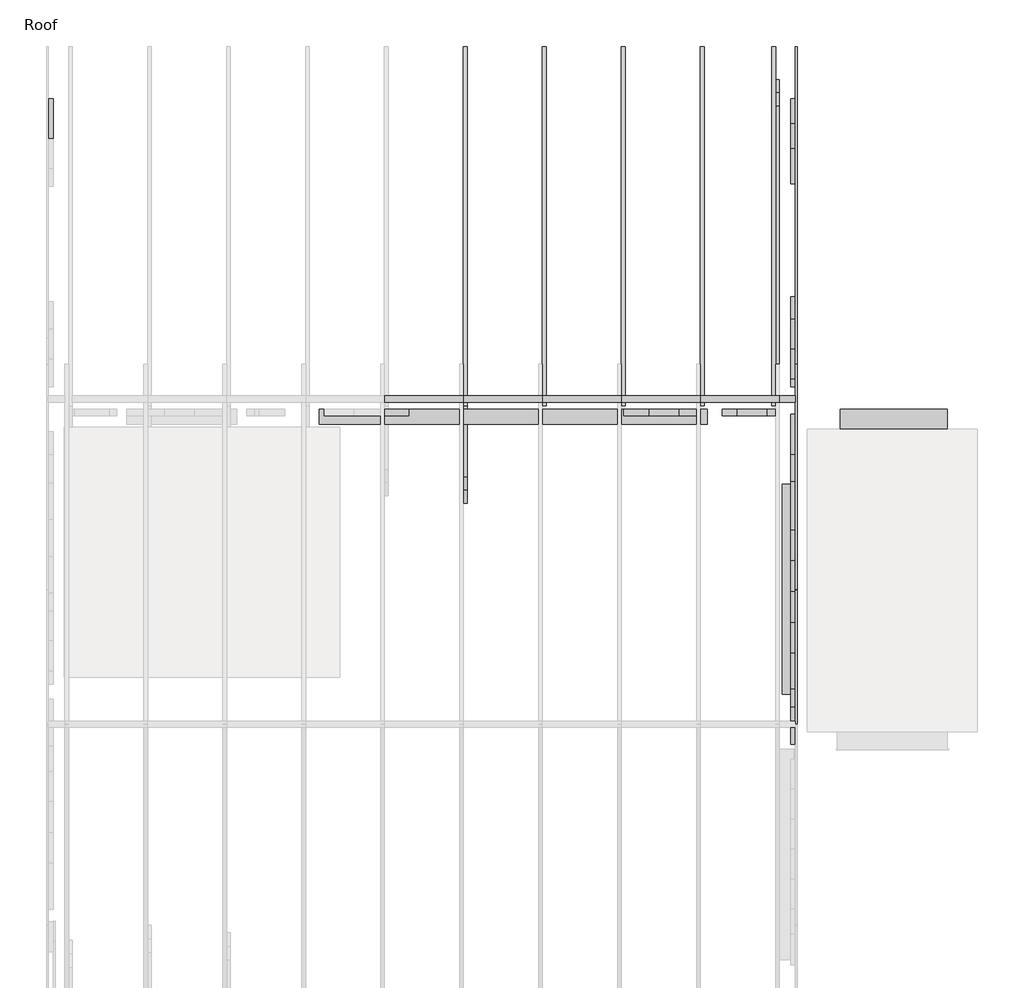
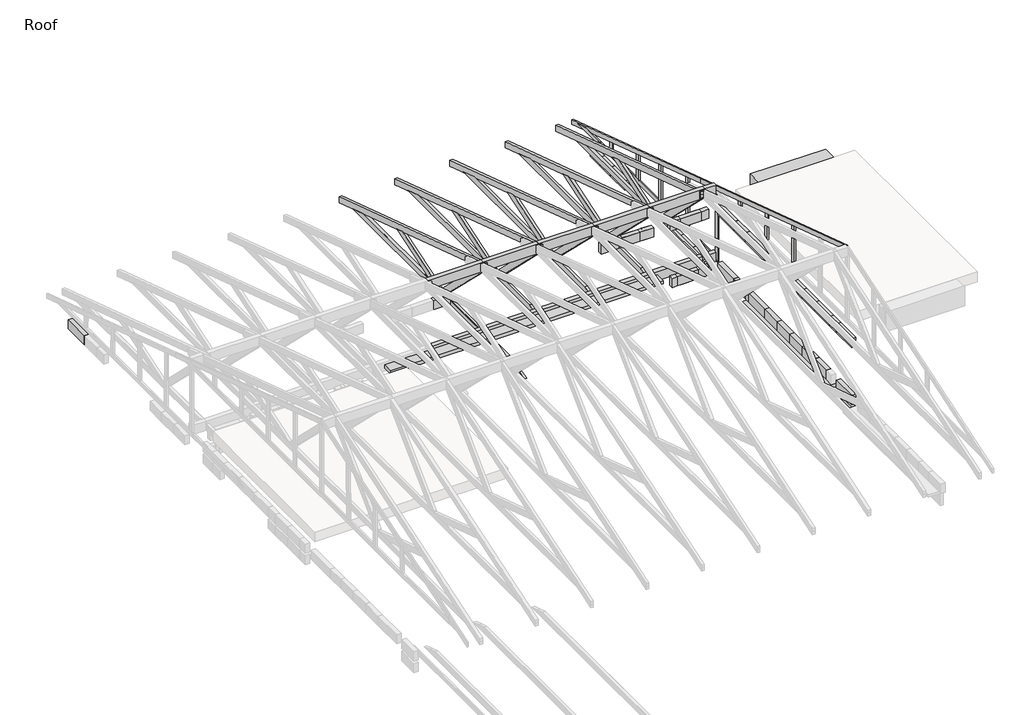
# One storey, part 5 of 5: 85 beams.
"""IFC4 building model written with IfcOpenShell, lengths in millimetres."""

from ifc_helpers import new_model, si_unit, frame, origin, place, context, project, spatial, polyline, outline, extrude, faceted_brep, transform, mapped, element, save
from components import beam_175f67f2, beam_d3007124, beam_9a653d77, beam_1b2abc71, beam_0a4d136b, beam_5e3254dc, beam_7afcca2a, dimension_lumber_2x6_70357265, experttrusspart_2_x_4_906307f6, beam_e0216813, beam_a2527db5, beam_b55a0d5f, beam_5666e245, beam_7e40e194, beam_5d155f78, beam_27df2988, beam_24b50243, beam_b0e6f51d, beam_c8284581, beam_14a9e158, beam_a4d90c35, beam_4063e014, beam_066f0da2, beam_8ec65034, beam_6d0ef5b7, beam_9d6aa0d6, beam_9a5d82eb, beam_c2d99e7f, beam_51b55d0f, beam_34389604, beam_7d733e46, beam_9a696346, beam_fba9aa39

model = new_model("IFC4")

# Units and contexts
model_context = context("Model", 3, world=origin())
ifc_project = project(units=[si_unit("LENGTHUNIT", "METRE", prefix="MILLI")], contexts=[model_context])

# Site, building, storey
site = spatial("IfcSite", under=ifc_project)
building = spatial("IfcBuilding", under=site)
storey = spatial("IfcBuildingStorey", under=building, Name="Roof", Elevation=4267.2)

# Beams
placement = place(None, origin())
element("IfcBeam", 1, ObjectType="BraceBeam : 1\" x 3\"", at=placement, inside=storey, context=model_context, shape_type="Brep", body=[
    faceted_brep([(-3931.9040766, -18731.0582154, 2438.4), (-3931.9040766, -15224.5451678, 2438.4), (-3912.8540766, -15224.5451678, 2438.4), (-3912.8540766, -18731.0582154, 2438.4), (-3912.8540766, -15321.8217635, 2470.15), (-3912.8540766, -15419.0983593, 2501.9), (-3912.8540766, -18667.4946837, 2501.9), (-3931.9040766, -15419.0983593, 2501.9), (-3931.9040766, -18667.4946837, 2501.9), (-3931.9040766, -15321.8217635, 2470.15)], [[[0, 1, 2, 3]], [[3, 2, 4, 5, 6]], [[6, 5, 7, 8]], [[8, 7, 9, 1, 0]], [[5, 4, 2, 1, 9, 7]], [[8, 0, 3, 6]]]),
    faceted_brep([(-3931.9040766, -18731.0582154, 2438.4), (-3931.9040766, -15590.7867725, 2438.4), (-3912.8540766, -15590.7867725, 2438.4), (-3912.8540766, -18731.0582154, 2438.4), (-3931.9040766, -18667.4946837, 2501.9), (-3931.9040766, -15785.339964, 2501.9), (-3912.8540766, -15785.339964, 2501.9), (-3912.8540766, -18667.4946837, 2501.9)], [[[0, 1, 2, 3]], [[4, 5, 1, 0]], [[3, 2, 6, 7]], [[4, 0, 3, 7]], [[7, 6, 5, 4]], [[2, 1, 5, 6]]]),
])
element("IfcBeam", 2, ObjectType="BraceBeam : 1\" x 3\"", at=placement, inside=storey, context=model_context, shape_type="Brep", body=[
    faceted_brep([(-3912.8540766, -18302.7763369, 3399.7852354), (-3912.8540766, -21960.3763369, 4593.5852354), (-3931.9040766, -21960.3763369, 4593.5852354), (-3931.9040766, -18302.7763369, 3399.7852354), (-3931.9040766, -18302.7763369, 3433.1836052), (-3931.9040766, -21960.3763369, 4626.9836052), (-3931.9040766, -21960.3763369, 4660.381975), (-3931.9040766, -18302.7763369, 3466.581975), (-3912.8540766, -21960.3763369, 4660.381975), (-3912.8540766, -18302.7763369, 3466.581975), (-3912.8540766, -18302.7763369, 3433.1836052), (-3912.8540766, -21960.3763369, 4626.9836052)], [[[0, 1, 2, 3]], [[4, 3, 2, 5, 6, 7]], [[7, 6, 8, 9]], [[10, 9, 8, 11, 1, 0]], [[9, 10, 0, 3, 4, 7]], [[6, 5, 2, 1, 11, 8]]]),
])
element("IfcBeam", 3, ObjectType="BraceBeam : 1\" x 3\"", at=placement, inside=storey, context=model_context, shape_type="SweptSolid", body=[
    extrude(outline(polyline([(1080.5257153, -1e-07), (1144.089247, -63.5), (100.0, -63.5000001), (100.0, 0.0), (1080.5257153, -1e-07)])), frame((-3931.9040766, -18666.4141581, 3582.425175), z_axis=(1.0, 2.2086053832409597e-12, 0.0), x_axis=(0.0, -0.000999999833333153, -0.9999995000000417)), (0.0, 0.0, 1.0), 19.05),
])
element("IfcBeam", 4, ObjectType="BraceBeam : 1\" x 3\"", at=placement, inside=storey, context=model_context, shape_type="Brep", body=[
    faceted_brep([(-3931.9040766, -15078.6306856, 2347.4378096), (-3912.8540766, -15078.6306856, 2347.4378096), (-3912.8540766, -18302.7767483, 3399.7852354), (-3931.9040766, -18302.7767483, 3399.7852354), (-3912.8540766, -15078.6304799, 2380.8361793), (-3912.8540766, -15078.6302742, 2414.2345491), (-3912.8540766, -18302.7763369, 3466.581975), (-3912.8540766, -18302.7765426, 3433.1836052), (-3931.9040766, -15078.6302742, 2414.2345491), (-3931.9040766, -18302.7763369, 3466.581975), (-3931.9040766, -15078.6304799, 2380.8361793), (-3931.9040766, -18302.7765426, 3433.1836052)], [[[0, 1, 2, 3]], [[4, 5, 6, 7, 2, 1]], [[5, 8, 9, 6]], [[10, 0, 3, 11, 9, 8]], [[8, 5, 4, 1, 0, 10]], [[6, 9, 11, 3, 2, 7]]]),
])
beam_shape = beam_175f67f2(model_context)
element("IfcBeam", 5, ObjectType="BraceBeam : 1\" x 3\"", at=placement, inside=storey, context=model_context, shape_type="MappedRepresentation", body=[
    mapped(beam_shape, transform((-3922.3790766, -20621.0005721, 3852.5327331), x_axis=(0.0, -0.009347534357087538, 0.9999563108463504), y_axis=(1.0, 0.0, 0.0), z_axis=(0.0, 0.9999563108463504, 0.009347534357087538))),
])
beam_2_shape = beam_d3007124(model_context)
element("IfcBeam", 6, ObjectType="BraceBeam : 1\" x 3\"", at=placement, inside=storey, context=model_context, shape_type="MappedRepresentation", body=[
    mapped(beam_2_shape, transform((-3922.3790766, -19948.8273655, 3742.6902724), x_axis=(0.0, -0.00988492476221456, 0.9999511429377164), y_axis=(1.0, 0.0, 0.0), z_axis=(0.0, 0.9999511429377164, 0.00988492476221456))),
])
beam_3_shape = beam_9a653d77(model_context)
element("IfcBeam", 7, ObjectType="BraceBeam : 1\" x 3\"", at=placement, inside=storey, context=model_context, shape_type="MappedRepresentation", body=[
    mapped(beam_3_shape, transform((-3922.3790766, -19276.6541589, 3632.8478118), x_axis=(0.0, -0.011417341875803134, 0.9999348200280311), y_axis=(1.0, 0.0, 0.0), z_axis=(0.0, 0.9999348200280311, 0.011417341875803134))),
])
beam_4_shape = beam_1b2abc71(model_context)
element("IfcBeam", 8, ObjectType="BraceBeam : 1\" x 3\"", at=placement, inside=storey, context=model_context, shape_type="MappedRepresentation", body=[
    mapped(beam_4_shape, transform((-3922.3790766, -16724.6797487, 2694.4931484), x_axis=(0.0, -0.010060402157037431, 0.9999493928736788), y_axis=(1.0, 4.9157751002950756e-12, 0.0), z_axis=(-4.915526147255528e-12, 0.9999493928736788, 0.010060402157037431))),
])
beam_5_shape = beam_0a4d136b(model_context)
element("IfcBeam", 9, ObjectType="BraceBeam : 1\" x 3\"", at=placement, inside=storey, context=model_context, shape_type="MappedRepresentation", body=[
    mapped(beam_5_shape, transform((-3922.3790766, -16052.5072187, 2584.6486148), x_axis=(0.0, -0.01182266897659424, 0.9999301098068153), y_axis=(1.0, 5.397466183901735e-12, 0.0), z_axis=(-5.397088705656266e-12, 0.9999301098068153, 0.01182266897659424))),
])
beam_6_shape = beam_5e3254dc(model_context)
element("IfcBeam", 10, ObjectType="BraceBeam : 1\" x 3\"", at=placement, inside=storey, context=model_context, shape_type="MappedRepresentation", body=[
    mapped(beam_6_shape, transform((-3922.3790766, -17968.1564448, 2897.0175409), x_axis=(0.0, 0.0005739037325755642, 0.9999998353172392), y_axis=(-1.0, -1.2265905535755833e-10, 0.0), z_axis=(1.226590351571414e-10, -0.9999998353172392, 0.0005739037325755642))),
])
beam_7_shape = beam_7afcca2a(model_context)
element("IfcBeam", 11, ObjectType="BraceBeam : 1\" x 3\"", at=placement, inside=storey, context=model_context, shape_type="MappedRepresentation", body=[
    mapped(beam_7_shape, transform((-3922.3790766, -17287.2411811, 2785.6889482), x_axis=(0.0, 0.0047511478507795, 0.9999887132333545), y_axis=(-1.0, -2.5459365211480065e-11, 0.0), z_axis=(2.5459077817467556e-11, -0.9999887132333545, 0.0047511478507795))),
])
element("IfcBeam", 12, ObjectType="Concrete-Rectangular Beam : 12 x 8", at=placement, inside=storey, context=model_context, shape_type="SweptSolid", body=[
    extrude(outline(polyline([(-3475.3638945, -18963.1763369), (-3475.3638945, -18759.9763369), (-2385.6790766, -18759.9763369), (-2385.6790766, -18963.1763369), (-3475.3638945, -18963.1763369)])), frame((0.0, 0.0, 3352.8), z_axis=(0.0, 0.0, 1.0), x_axis=(1.0, 0.0, 0.0)), (0.0, 0.0, 1.0), 304.8),
])
dimension_lumber_2x6_shape = dimension_lumber_2x6_70357265(model_context)
element("IfcBeam", 13, ObjectType="Dimension Lumber : 2x6", at=placement, inside=storey, context=model_context, shape_type="MappedRepresentation", body=[
    mapped(dimension_lumber_2x6_shape, transform((-6805.2890766, -18836.1763369, 2565.4), x_axis=(-1.0, 0.0, 0.0), y_axis=(0.0, 0.0, -1.0), z_axis=(0.0, -1.0, 0.0))),
])
element("IfcBeam", 14, ObjectType="ExpertTrussPart : 2 x 4", at=placement, inside=storey, context=model_context, shape_type="SweptSolid", body=[
    extrude(outline(polyline([(-19445.2685721, 2527.3), (-15686.1584165, 2527.3), (-15549.9711824, 2482.85), (-15413.7839484, 2438.4), (-19717.6430401, 2438.4), (-19581.4558061, 2482.85), (-19445.2685721, 2527.3)])), frame((-7299.7324099, 0.0, 0.0), z_axis=(1.0, 0.0, 0.0), x_axis=(0.0, 1.0, 0.0)), (0.0, 0.0, 1.0), 38.1),
    extrude(outline(polyline([(-18760.0431336, 2527.3), (-15686.1584165, 2527.3), (-15549.9711824, 2482.85), (-15413.7839484, 2438.4), (-18760.0431336, 2438.4), (-18760.0431336, 2527.3)])), frame((-7299.7324099, 0.0, 0.0), z_axis=(1.0, 0.0, 0.0), x_axis=(0.0, 1.0, 0.0)), (0.0, 0.0, 1.0), 38.1),
    extrude(outline(polyline([(-18734.6431336, 2527.3), (-15686.1584165, 2527.3), (-15549.9711824, 2482.85), (-15413.7839484, 2438.4), (-18734.6431336, 2438.4), (-18734.6431336, 2527.3)])), frame((-7299.7324099, 0.0, 0.0), z_axis=(1.0, 0.0, 0.0), x_axis=(0.0, 1.0, 0.0)), (0.0, 0.0, 1.0), 38.1),
])
element("IfcBeam", 15, ObjectType="ExpertTrussPart : 2 x 4", at=placement, inside=storey, context=model_context, shape_type="SweptSolid", body=[
    extrude(outline(polyline([(-18556.6000825, 3455.8898151), (-17624.7069666, 2543.4111391), (-17626.3913475, 2527.3), (-17735.3211471, 2527.3), (-18723.530009, 3494.9211772), (-18723.530009, 3510.3738883), (-18556.6000825, 3455.8898151)])), frame((-7299.7324099, 0.0, 0.0), z_axis=(1.0, 0.0, 0.0), x_axis=(0.0, 1.0, 0.0)), (0.0, 0.0, 1.0), 38.1),
])
element("IfcBeam", 16, ObjectType="ExpertTrussPart : 2 x 4", at=placement, inside=storey, context=model_context, shape_type="SweptSolid", body=[
    extrude(outline(polyline([(-16659.8101091, 2845.0890941), (-16588.181265, 2821.7102353), (-16516.5524209, 2798.3313765), (-17346.9464253, 2527.3), (-17626.3913475, 2527.3), (-17626.1415576, 2529.6892463), (-16659.8101091, 2845.0890941)])), frame((-7299.7324099, 0.0, 0.0), z_axis=(1.0, 0.0, 0.0), x_axis=(0.0, 1.0, 0.0)), (0.0, 0.0, 1.0), 38.1),
])
element("IfcBeam", 17, ObjectType="ExpertTrussPart : 2 x 4", at=placement, inside=storey, context=model_context, shape_type="SweptSolid", body=[
    extrude(outline(polyline([(-18455.1982114, 2527.3), (-15686.1584165, 2527.3), (-15549.9711824, 2482.85), (-15413.7839484, 2438.4), (-18727.5726795, 2438.4), (-18591.3854455, 2482.85), (-18455.1982114, 2527.3)])), frame((-6497.9390766, 0.0, 0.0), z_axis=(1.0, 0.0, 0.0), x_axis=(0.0, 1.0, 0.0)), (0.0, 0.0, 1.0), 38.1),
])
element("IfcBeam", 18, ObjectType="ExpertTrussPart : 2 x 4", at=placement, inside=storey, context=model_context, shape_type="SweptSolid", body=[
    extrude(outline(polyline([(-18556.6000825, 3455.8898151), (-17624.7069666, 2543.4111391), (-17626.3913475, 2527.3), (-17735.3211471, 2527.3), (-18723.530009, 3494.9211772), (-18723.530009, 3510.3738883), (-18556.6000825, 3455.8898151)])), frame((-6497.9390766, 0.0, 0.0), z_axis=(1.0, 0.0, 0.0), x_axis=(0.0, 1.0, 0.0)), (0.0, 0.0, 1.0), 38.1),
])
element("IfcBeam", 19, ObjectType="ExpertTrussPart : 2 x 4", at=placement, inside=storey, context=model_context, shape_type="SweptSolid", body=[
    extrude(outline(polyline([(-16659.8101091, 2845.0890941), (-16588.181265, 2821.7102353), (-16516.5524209, 2798.3313765), (-17346.9464253, 2527.3), (-17626.3913475, 2527.3), (-17626.1415576, 2529.6892463), (-16659.8101091, 2845.0890941)])), frame((-6497.9390766, 0.0, 0.0), z_axis=(1.0, 0.0, 0.0), x_axis=(0.0, 1.0, 0.0)), (0.0, 0.0, 1.0), 38.1),
])
element("IfcBeam", 20, ObjectType="ExpertTrussPart : 2 x 4", at=placement, inside=storey, context=model_context, shape_type="SweptSolid", body=[
    extrude(outline(polyline([(-18455.1982114, 2527.3), (-15686.1584165, 2527.3), (-15549.9711824, 2482.85), (-15413.7839484, 2438.4), (-18727.5726795, 2438.4), (-18591.3854455, 2482.85), (-18455.1982114, 2527.3)])), frame((-5696.1457433, 0.0, 0.0), z_axis=(1.0, 0.0, 0.0), x_axis=(0.0, 1.0, 0.0)), (0.0, 0.0, 1.0), 38.1),
])
element("IfcBeam", 21, ObjectType="ExpertTrussPart : 2 x 4", at=placement, inside=storey, context=model_context, shape_type="SweptSolid", body=[
    extrude(outline(polyline([(-18556.6000825, 3455.8898151), (-17624.7069666, 2543.4111391), (-17626.3913475, 2527.3), (-17735.3211471, 2527.3), (-18723.530009, 3494.9211772), (-18723.530009, 3510.3738883), (-18556.6000825, 3455.8898151)])), frame((-5696.1457433, 0.0, 0.0), z_axis=(1.0, 0.0, 0.0), x_axis=(0.0, 1.0, 0.0)), (0.0, 0.0, 1.0), 38.1),
])
element("IfcBeam", 22, ObjectType="ExpertTrussPart : 2 x 4", at=placement, inside=storey, context=model_context, shape_type="SweptSolid", body=[
    extrude(outline(polyline([(-16659.8101091, 2845.0890941), (-16588.181265, 2821.7102353), (-16516.5524209, 2798.3313765), (-17346.9464253, 2527.3), (-17626.3913475, 2527.3), (-17626.1415576, 2529.6892463), (-16659.8101091, 2845.0890941)])), frame((-5696.1457433, 0.0, 0.0), z_axis=(1.0, 0.0, 0.0), x_axis=(0.0, 1.0, 0.0)), (0.0, 0.0, 1.0), 38.1),
])
element("IfcBeam", 23, ObjectType="ExpertTrussPart : 2 x 4", at=placement, inside=storey, context=model_context, shape_type="SweptSolid", body=[
    extrude(outline(polyline([(-18455.1982114, 2527.3), (-15686.1584165, 2527.3), (-15549.9711824, 2482.85), (-15413.7839484, 2438.4), (-18727.5726795, 2438.4), (-18591.3854455, 2482.85), (-18455.1982114, 2527.3)])), frame((-4894.3524099, 0.0, 0.0), z_axis=(1.0, 0.0, 0.0), x_axis=(0.0, 1.0, 0.0)), (0.0, 0.0, 1.0), 38.1),
])
element("IfcBeam", 24, ObjectType="ExpertTrussPart : 2 x 4", at=placement, inside=storey, context=model_context, shape_type="SweptSolid", body=[
    extrude(outline(polyline([(-18556.6000825, 3455.8898151), (-17624.7069666, 2543.4111391), (-17626.3913475, 2527.3), (-17735.3211471, 2527.3), (-18723.530009, 3494.9211772), (-18723.530009, 3510.3738883), (-18556.6000825, 3455.8898151)])), frame((-4894.3524099, 0.0, 0.0), z_axis=(1.0, 0.0, 0.0), x_axis=(0.0, 1.0, 0.0)), (0.0, 0.0, 1.0), 38.1),
])
element("IfcBeam", 25, ObjectType="ExpertTrussPart : 2 x 4", at=placement, inside=storey, context=model_context, shape_type="SweptSolid", body=[
    extrude(outline(polyline([(-16659.8101091, 2845.0890941), (-16588.181265, 2821.7102353), (-16516.5524209, 2798.3313765), (-17346.9464253, 2527.3), (-17626.3913475, 2527.3), (-17626.1415576, 2529.6892463), (-16659.8101091, 2845.0890941)])), frame((-4894.3524099, 0.0, 0.0), z_axis=(1.0, 0.0, 0.0), x_axis=(0.0, 1.0, 0.0)), (0.0, 0.0, 1.0), 38.1),
])
element("IfcBeam", 26, ObjectType="ExpertTrussPart : 2 x 4", at=placement, inside=storey, context=model_context, shape_type="SweptSolid", body=[
    extrude(outline(polyline([(-18734.6431336, 2527.3), (-15686.1584165, 2527.3), (-15549.9711824, 2482.85), (-15413.7839484, 2438.4), (-18734.6431336, 2438.4), (-18734.6431336, 2482.85), (-18734.6431336, 2527.3)])), frame((-4130.6590766, 0.0, 0.0), z_axis=(1.0, 0.0, 0.0), x_axis=(0.0, 1.0, 0.0)), (0.0, 0.0, 1.0), 38.1),
])
element("IfcBeam", 27, ObjectType="ExpertTrussPart : 2 x 4", at=placement, inside=storey, context=model_context, shape_type="SweptSolid", body=[
    extrude(outline(polyline([(-18556.6000825, 3455.8898151), (-17624.7069666, 2543.4111391), (-17626.3913475, 2527.3), (-17735.3211471, 2527.3), (-18723.530009, 3494.9211772), (-18723.530009, 3510.3738883), (-18556.6000825, 3455.8898151)])), frame((-4168.7590766, 0.0, 0.0), z_axis=(1.0, 0.0, 0.0), x_axis=(0.0, 1.0, 0.0)), (0.0, 0.0, 1.0), 38.1),
])
element("IfcBeam", 28, ObjectType="ExpertTrussPart : 2 x 4", at=placement, inside=storey, context=model_context, shape_type="SweptSolid", body=[
    extrude(outline(polyline([(-16659.8101091, 2845.0890941), (-16588.181265, 2821.7102353), (-16516.5524209, 2798.3313765), (-17346.9464253, 2527.3), (-17626.3913475, 2527.3), (-17626.1415576, 2529.6892463), (-16659.8101091, 2845.0890941)])), frame((-4168.7590766, 0.0, 0.0), z_axis=(1.0, 0.0, 0.0), x_axis=(0.0, 1.0, 0.0)), (0.0, 0.0, 1.0), 38.1),
])
experttrusspart_2_x_4_shape = experttrusspart_2_x_4_906307f6(model_context)
element("IfcBeam", 29, ObjectType="ExpertTrussPart : 2 x 4", at=placement, inside=storey, context=model_context, shape_type="MappedRepresentation", body=[
    mapped(experttrusspart_2_x_4_shape, transform((-7280.6824099, -16914.872089, 2920.0480394), x_axis=(0.0, 0.9506452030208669, -0.31028003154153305), y_axis=(-1.0, 0.0, 0.0), z_axis=(0.0, 0.31028003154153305, 0.9506452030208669))),
])
element("IfcBeam", 30, ObjectType="ExpertTrussPart : 2 x 4", at=placement, inside=storey, context=model_context, shape_type="MappedRepresentation", body=[
    mapped(experttrusspart_2_x_4_shape, transform((-6478.8890766, -16914.872089, 2920.0480394), x_axis=(0.0, 0.9506452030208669, -0.31028003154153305), y_axis=(-1.0, 0.0, 0.0), z_axis=(0.0, 0.31028003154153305, 0.9506452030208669))),
])
element("IfcBeam", 31, ObjectType="ExpertTrussPart : 2 x 4", at=placement, inside=storey, context=model_context, shape_type="MappedRepresentation", body=[
    mapped(experttrusspart_2_x_4_shape, transform((-5677.0957433, -16914.872089, 2920.0480394), x_axis=(0.0, 0.9506452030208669, -0.31028003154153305), y_axis=(-1.0, 0.0, 0.0), z_axis=(0.0, 0.31028003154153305, 0.9506452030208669))),
])
element("IfcBeam", 32, ObjectType="ExpertTrussPart : 2 x 4", at=placement, inside=storey, context=model_context, shape_type="MappedRepresentation", body=[
    mapped(experttrusspart_2_x_4_shape, transform((-4875.3024099, -16914.872089, 2920.0480394), x_axis=(0.0, 0.9506452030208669, -0.31028003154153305), y_axis=(-1.0, 0.0, 0.0), z_axis=(0.0, 0.31028003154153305, 0.9506452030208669))),
])
element("IfcBeam", 33, ObjectType="ExpertTrussPart : 2 x 4", at=placement, inside=storey, context=model_context, shape_type="MappedRepresentation", body=[
    mapped(experttrusspart_2_x_4_shape, transform((-4149.7090766, -16914.872089, 2920.0480394), x_axis=(0.0, 0.9506452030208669, -0.31028003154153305), y_axis=(-1.0, 0.0, 0.0), z_axis=(0.0, 0.31028003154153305, 0.9506452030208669))),
])
beam_8_shape = beam_e0216813(model_context)
element("IfcBeam", 34, ObjectType="Rectangular(Timber)-Beam : Timber_0' - 1 31/32\" x0' - 5 29/32\" _ContentGenerator", at=placement, inside=storey, context=model_context, shape_type="MappedRepresentation", body=[
    mapped(beam_8_shape, transform((-3985.8790766, -20588.7863369, 2336.8), x_axis=(0.0, -1.0000000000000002, 0.0), y_axis=(0.0, 0.0, -1.0000000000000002), z_axis=(1.0000000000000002, 0.0, 0.0))),
])
element("IfcBeam", 35, ObjectType="WallPlates : 6\" x 3\"", at=placement, inside=storey, context=model_context, shape_type="SweptSolid", body=[
    extrude(outline(polyline([(-4570.0890766, -18826.6513369), (-4570.0890766, -18763.1513369), (-4265.2890766, -18763.1513369), (-4265.2890766, -18826.6513369), (-4570.0890766, -18826.6513369)])), frame((0.0, 0.0, 2368.55), z_axis=(0.0, 0.0, 1.0), x_axis=(1.0, 0.0, 0.0)), (0.0, 0.0, 1.0), 139.7),
    extrude(outline(polyline([(-4519.2890766, -18763.1513369), (-4265.2890766, -18763.1513369), (-4265.2890766, -18826.6513369), (-4519.2890766, -18826.6513369), (-4519.2890766, -18763.1513369)])), frame((0.0, 0.0, 2368.55), z_axis=(0.0, 0.0, 1.0), x_axis=(1.0, 0.0, 0.0)), (0.0, 0.0, 1.0), 139.7),
])
element("IfcBeam", 36, ObjectType="WallPlates : 6\" x 3\"", at=placement, inside=storey, context=model_context, shape_type="SweptSolid", body=[
    extrude(outline(polyline([(-4265.2890766, -18826.6513369), (-4265.2890766, -18763.1513369), (-4112.8690766, -18763.1513369), (-4112.8690766, -18826.6513369), (-4265.2890766, -18826.6513369)])), frame((0.0, 0.0, 2368.55), z_axis=(0.0, 0.0, 1.0), x_axis=(1.0, 0.0, 0.0)), (0.0, 0.0, 1.0), 139.7),
    extrude(outline(polyline([(-4214.4890766, -18763.1513369), (-4112.8690766, -18763.1513369), (-4112.8690766, -18826.6513369), (-4214.4890766, -18826.6513369), (-4214.4890766, -18763.1513369)])), frame((0.0, 0.0, 2368.55), z_axis=(0.0, 0.0, 1.0), x_axis=(1.0, 0.0, 0.0)), (0.0, 0.0, 1.0), 139.7),
])
element("IfcBeam", 37, ObjectType="WallPlates : 6\" x 3\"", at=placement, inside=storey, context=model_context, shape_type="SweptSolid", body=[
    extrude(outline(polyline([(-4519.2890766, -18826.6513369), (-4519.2890766, -18763.1513369), (-4214.4890766, -18763.1513369), (-4214.4890766, -18826.6513369), (-4519.2890766, -18826.6513369)])), frame((0.0, 0.0, 3241.156975), z_axis=(0.0, 0.0, 1.0), x_axis=(1.0, 0.0, 0.0)), (0.0, 0.0, 1.0), 139.7),
    extrude(outline(polyline([(-4519.2890766, -18826.6513369), (-4519.2890766, -18763.1513369), (-4265.2890766, -18763.1513369), (-4265.2890766, -18826.6513369), (-4519.2890766, -18826.6513369)])), frame((0.0, 0.0, 3241.156975), z_axis=(0.0, 0.0, 1.0), x_axis=(1.0, 0.0, 0.0)), (0.0, 0.0, 1.0), 139.7),
])
element("IfcBeam", 38, ObjectType="WallPlates : 6\" x 3\"", at=placement, inside=storey, context=model_context, shape_type="SweptSolid", body=[
    extrude(outline(polyline([(-4671.6890766, -18826.6513369), (-4671.6890766, -18763.1513369), (-4519.2890766, -18763.1513369), (-4519.2890766, -18826.6513369), (-4671.6890766, -18826.6513369)])), frame((0.0, 0.0, 3241.156975), z_axis=(0.0, 0.0, 1.0), x_axis=(1.0, 0.0, 0.0)), (0.0, 0.0, 1.0), 139.7),
    extrude(outline(polyline([(-4671.6890766, -18826.6513369), (-4671.6890766, -18763.1513369), (-4570.0890766, -18763.1513369), (-4570.0890766, -18826.6513369), (-4671.6890766, -18826.6513369)])), frame((0.0, 0.0, 3241.156975), z_axis=(0.0, 0.0, 1.0), x_axis=(1.0, 0.0, 0.0)), (0.0, 0.0, 1.0), 139.7),
])
element("IfcBeam", 39, ObjectType="WallPlates : 6\" x 3\"", at=placement, inside=storey, context=model_context, shape_type="SweptSolid", body=[
    extrude(outline(polyline([(-5416.7457433, -18826.6513369), (-5416.7457433, -18763.1513369), (-5111.9457433, -18763.1513369), (-5111.9457433, -18826.6513369), (-5416.7457433, -18826.6513369)])), frame((0.0, 0.0, 3241.156975), z_axis=(0.0, 0.0, 1.0), x_axis=(1.0, 0.0, 0.0)), (0.0, 0.0, 1.0), 139.7),
    extrude(outline(polyline([(-5365.9457433, -18763.1513369), (-5111.9457433, -18763.1513369), (-5111.9457433, -18826.6513369), (-5365.9457433, -18826.6513369), (-5365.9457433, -18763.1513369)])), frame((0.0, 0.0, 3241.156975), z_axis=(0.0, 0.0, 1.0), x_axis=(1.0, 0.0, 0.0)), (0.0, 0.0, 1.0), 139.7),
])
element("IfcBeam", 40, ObjectType="WallPlates : 6\" x 3\"", at=placement, inside=storey, context=model_context, shape_type="SweptSolid", body=[
    extrude(outline(polyline([(-5111.9457433, -18826.6513369), (-5111.9457433, -18763.1513369), (-4908.7457433, -18763.1513369), (-4908.7457433, -18826.6513369), (-5111.9457433, -18826.6513369)])), frame((0.0, 0.0, 3241.156975), z_axis=(0.0, 0.0, 1.0), x_axis=(1.0, 0.0, 0.0)), (0.0, 0.0, 1.0), 139.7),
    extrude(outline(polyline([(-5061.1457433, -18763.1513369), (-4908.7457433, -18763.1513369), (-4908.7457433, -18826.6513369), (-5061.1457433, -18826.6513369), (-5061.1457433, -18763.1513369)])), frame((0.0, 0.0, 3241.156975), z_axis=(0.0, 0.0, 1.0), x_axis=(1.0, 0.0, 0.0)), (0.0, 0.0, 1.0), 139.7),
])
beam_9_shape = beam_a2527db5(model_context)
element("IfcBeam", 41, ObjectType="WallPlates : 6\" x 3\"", at=placement, inside=storey, context=model_context, shape_type="MappedRepresentation", body=[
    mapped(beam_9_shape, transform((-7700.6290766, -18658.4431336, 2508.25), x_axis=(-1.0000000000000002, 0.0, 0.0), y_axis=(0.0, 0.0, -1.0000000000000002), z_axis=(0.0, -1.0000000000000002, 0.0))),
])
element("IfcBeam", 42, ObjectType="WallPlates : 6\" x 3\"", at=placement, inside=storey, context=model_context, shape_type="MappedRepresentation", body=[
    mapped(beam_9_shape, transform((-7700.6290766, -18658.4431336, 3534.2048183), x_axis=(-1.0000000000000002, 0.0, 0.0), y_axis=(0.0, 0.0, -1.0000000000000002), z_axis=(0.0, -1.0000000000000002, 0.0))),
])
element("IfcBeam", 43, ObjectType="WallPlates : 6\" x 3\"", at=placement, inside=storey, context=model_context, shape_type="MappedRepresentation", body=[
    mapped(beam_9_shape, transform((-6898.8357433, -18658.4431336, 2508.25), x_axis=(-1.0000000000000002, 0.0, 0.0), y_axis=(0.0, 0.0, -1.0000000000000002), z_axis=(0.0, -1.0000000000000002, 0.0))),
])
element("IfcBeam", 44, ObjectType="WallPlates : 6\" x 3\"", at=placement, inside=storey, context=model_context, shape_type="MappedRepresentation", body=[
    mapped(beam_9_shape, transform((-6898.8357433, -18658.4431336, 3534.2048183), x_axis=(-1.0000000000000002, 0.0, 0.0), y_axis=(0.0, 0.0, -1.0000000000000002), z_axis=(0.0, -1.0000000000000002, 0.0))),
])
element("IfcBeam", 45, ObjectType="WallPlates : 6\" x 3\"", at=placement, inside=storey, context=model_context, shape_type="MappedRepresentation", body=[
    mapped(beam_9_shape, transform((-6097.0424099, -18658.4431336, 2508.25), x_axis=(-1.0000000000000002, 0.0, 0.0), y_axis=(0.0, 0.0, -1.0000000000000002), z_axis=(0.0, -1.0000000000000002, 0.0))),
])
element("IfcBeam", 46, ObjectType="WallPlates : 6\" x 3\"", at=placement, inside=storey, context=model_context, shape_type="MappedRepresentation", body=[
    mapped(beam_9_shape, transform((-6097.0424099, -18658.4431336, 3534.2048183), x_axis=(-1.0000000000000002, 0.0, 0.0), y_axis=(0.0, 0.0, -1.0000000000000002), z_axis=(0.0, -1.0000000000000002, 0.0))),
])
element("IfcBeam", 47, ObjectType="WallPlates : 6\" x 3\"", at=placement, inside=storey, context=model_context, shape_type="MappedRepresentation", body=[
    mapped(beam_9_shape, transform((-5295.2490766, -18658.4431336, 2508.25), x_axis=(-1.0000000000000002, 0.0, 0.0), y_axis=(0.0, 0.0, -1.0000000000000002), z_axis=(0.0, -1.0000000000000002, 0.0))),
])
element("IfcBeam", 48, ObjectType="WallPlates : 6\" x 3\"", at=placement, inside=storey, context=model_context, shape_type="MappedRepresentation", body=[
    mapped(beam_9_shape, transform((-5295.2490766, -18658.4431336, 3534.2048183), x_axis=(-1.0000000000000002, 0.0, 0.0), y_axis=(0.0, 0.0, -1.0000000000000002), z_axis=(0.0, -1.0000000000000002, 0.0))),
])
element("IfcBeam", 49, ObjectType="WallPlates : 6\" x 3\"", at=placement, inside=storey, context=model_context, shape_type="MappedRepresentation", body=[
    mapped(beam_9_shape, transform((-4493.4557433, -18658.4431336, 3534.2048183), x_axis=(-1.0000000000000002, 0.0, 0.0), y_axis=(0.0, 0.0, -1.0000000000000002), z_axis=(0.0, -1.0000000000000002, 0.0))),
])
beam_10_shape = beam_b55a0d5f(model_context)
element("IfcBeam", 50, ObjectType="WallPlates : 6\" x 3\"", at=placement, inside=storey, context=model_context, shape_type="MappedRepresentation", body=[
    mapped(beam_10_shape, transform((-3944.5990766, -16296.2431336, 2264.3798851), x_axis=(0.0, 1.0000000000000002, 0.0), y_axis=(0.0, 0.0, -1.0000000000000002), z_axis=(-1.0000000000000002, 0.0, 0.0))),
])
beam_11_shape = beam_5666e245(model_context)
element("IfcBeam", 51, ObjectType="WallPlates : 6\" x 3\"", at=placement, inside=storey, context=model_context, shape_type="MappedRepresentation", body=[
    mapped(beam_11_shape, transform((-3944.5990766, -15737.4481336, 2264.3798851), x_axis=(0.0, 1.0000000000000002, 0.0), y_axis=(0.0, 0.0, -1.0000000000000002), z_axis=(-1.0000000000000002, 0.0, 0.0))),
])
beam_12_shape = beam_7e40e194(model_context)
element("IfcBeam", 52, ObjectType="WallPlates : 6\" x 3\"", at=placement, inside=storey, context=model_context, shape_type="MappedRepresentation", body=[
    mapped(beam_12_shape, transform((-11494.7540766, -15813.6431336, 2266.95), x_axis=(0.0, 1.0000000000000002, 0.0), y_axis=(0.0, 0.0, -1.0000000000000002), z_axis=(-1.0000000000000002, 0.0, 0.0))),
])
beam_13_shape = beam_5d155f78(model_context)
element("IfcBeam", 53, ObjectType="WallPlates : 6\" x 3\"", at=placement, inside=storey, context=model_context, shape_type="MappedRepresentation", body=[
    mapped(beam_13_shape, transform((-4012.2315766, -18658.4431336, 3534.2048183), x_axis=(-1.0000000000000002, 0.0, 0.0), y_axis=(0.0, 0.0, -1.0000000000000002), z_axis=(0.0, -1.0000000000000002, 0.0))),
])
beam_14_shape = beam_27df2988(model_context)
element("IfcBeam", 54, ObjectType="WallPlates : 6\" x 3\"", at=placement, inside=storey, context=model_context, shape_type="MappedRepresentation", body=[
    mapped(beam_14_shape, transform((-4512.5057433, -18658.4431336, 2508.25), x_axis=(-1.0000000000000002, 0.0, 0.0), y_axis=(0.0, 0.0, -1.0000000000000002), z_axis=(0.0, -1.0000000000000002, 0.0))),
])
beam_15_shape = beam_24b50243(model_context)
element("IfcBeam", 55, ObjectType="WallPlates : 6\" x 3\"", at=placement, inside=storey, context=model_context, shape_type="MappedRepresentation", body=[
    mapped(beam_15_shape, transform((-4031.2815766, -18658.4431336, 2508.25), x_axis=(-1.0000000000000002, 0.0, 0.0), y_axis=(0.0, 0.0, -1.0000000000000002), z_axis=(0.0, -1.0000000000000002, 0.0))),
])
beam_16_shape = beam_b0e6f51d(model_context)
element("IfcBeam", 56, ObjectType="WallPlates : 6\" x 3\"", at=placement, inside=storey, context=model_context, shape_type="MappedRepresentation", body=[
    mapped(beam_16_shape, transform((-3944.6040766, -19742.1096702, 3308.35), x_axis=(0.0, -1.0000000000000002, 0.0), y_axis=(0.0, 0.0, -1.0000000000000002), z_axis=(1.0000000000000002, 0.0, 0.0))),
])
beam_17_shape = beam_c8284581(model_context)
element("IfcBeam", 57, ObjectType="WallPlates : 6\" x 3\"", at=placement, inside=storey, context=model_context, shape_type="MappedRepresentation", body=[
    mapped(beam_17_shape, transform((-3944.6040766, -21384.6430036, 2438.4), x_axis=(0.0, -1.0000000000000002, 0.0), y_axis=(0.0, 0.0, -1.0000000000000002), z_axis=(1.0000000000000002, 0.0, 0.0))),
])
beam_18_shape = beam_14a9e158(model_context)
element("IfcBeam", 58, ObjectType="WallPlates : 6\" x 3\"", at=placement, inside=storey, context=model_context, shape_type="MappedRepresentation", body=[
    mapped(beam_18_shape, transform((-4163.6790766, -18794.9013369, 3311.006975), x_axis=(1.0000000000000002, 0.0, 0.0), y_axis=(0.0, 0.0, -1.0000000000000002), z_axis=(0.0, 1.0000000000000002, 0.0))),
])
beam_19_shape = beam_a4d90c35(model_context)
element("IfcBeam", 59, ObjectType="WallPlates : 6\" x 3\"", at=placement, inside=storey, context=model_context, shape_type="MappedRepresentation", body=[
    mapped(beam_19_shape, transform((-5543.7457433, -18794.9013369, 3311.006975), x_axis=(1.0000000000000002, 0.0, 0.0), y_axis=(0.0, 0.0, -1.0000000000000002), z_axis=(0.0, 1.0000000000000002, 0.0))),
])
beam_20_shape = beam_4063e014(model_context)
element("IfcBeam", 60, ObjectType="WallPlates : 6\" x 3\"", at=placement, inside=storey, context=model_context, shape_type="MappedRepresentation", body=[
    mapped(beam_20_shape, transform((-7978.3357433, -18794.9013369, 3311.006975), x_axis=(1.0000000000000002, 0.0, 0.0), y_axis=(0.0, 0.0, -1.0000000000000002), z_axis=(0.0, 1.0000000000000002, 0.0))),
])
element("IfcBeam", 61, ObjectType="WallPlates : 6\" x 3\"", at=placement, inside=storey, context=model_context, shape_type="MappedRepresentation", body=[
    mapped(beam_12_shape, transform((-3944.6040766, -19013.9763369, 2438.4), x_axis=(0.0, -1.0000000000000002, 0.0), y_axis=(0.0, 0.0, -1.0000000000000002), z_axis=(1.0000000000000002, 0.0, 0.0))),
])
element("IfcBeam", 62, ObjectType="WallPlates : 6\" x 3\"", at=placement, inside=storey, context=model_context, shape_type="MappedRepresentation", body=[
    mapped(beam_12_shape, transform((-3944.6040766, -19013.9763369, 3308.35), x_axis=(0.0, -1.0000000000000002, 0.0), y_axis=(0.0, 0.0, -1.0000000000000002), z_axis=(1.0000000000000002, 0.0, 0.0))),
])
beam_21_shape = beam_066f0da2(model_context)
element("IfcBeam", 63, ObjectType="WallPlates : 6\" x 3\"", at=placement, inside=storey, context=model_context, shape_type="MappedRepresentation", body=[
    mapped(beam_21_shape, transform((-3944.6040766, -21972.2824072, 3308.35), x_axis=(0.0, -1.0000000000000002, 0.0), y_axis=(0.0, 0.0, -1.0000000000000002), z_axis=(1.0000000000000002, 0.0, 0.0))),
])
element("IfcBeam", 64, ObjectType="WallPlates : 6\" x 3\"", at=placement, inside=storey, context=model_context, shape_type="MappedRepresentation", body=[
    mapped(beam_21_shape, transform((-3944.6040766, -21972.2824072, 2438.4), x_axis=(0.0, -1.0000000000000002, 0.0), y_axis=(0.0, 0.0, -1.0000000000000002), z_axis=(1.0000000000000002, 0.0, 0.0))),
])
element("IfcBeam", 65, ObjectType="WallPlates : 6\" x 3\"", at=placement, inside=storey, context=model_context, shape_type="MappedRepresentation", body=[
    mapped(beam_21_shape, transform((-3944.6040766, -21972.2824072, 2260.6), x_axis=(0.0, -1.0000000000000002, 0.0), y_axis=(0.0, 0.0, -1.0000000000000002), z_axis=(1.0000000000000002, 0.0, 0.0))),
])
beam_22_shape = beam_8ec65034(model_context)
element("IfcBeam", 66, ObjectType="WallPlates : 6\" x 3\"", at=placement, inside=storey, context=model_context, shape_type="MappedRepresentation", body=[
    mapped(beam_22_shape, transform((-4606.7663874, -18794.9013369, 2438.4), x_axis=(1.0000000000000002, 0.0, 0.0), y_axis=(0.0, 0.0, -1.0000000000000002), z_axis=(0.0, 1.0000000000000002, 0.0))),
])
beam_23_shape = beam_6d0ef5b7(model_context)
element("IfcBeam", 67, ObjectType="WallPlates : 6\" x 3\"", at=placement, inside=storey, context=model_context, shape_type="MappedRepresentation", body=[
    mapped(beam_23_shape, transform((-3944.5990766, -18493.3506336, 2264.3798851), x_axis=(0.0, 1.0000000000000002, 0.0), y_axis=(0.0, 0.0, -1.0000000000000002), z_axis=(-1.0000000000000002, 0.0, 0.0))),
])
beam_24_shape = beam_9d6aa0d6(model_context)
element("IfcBeam", 68, ObjectType="WallPlates : 6\" x 3\"", at=placement, inside=storey, context=model_context, shape_type="MappedRepresentation", body=[
    mapped(beam_24_shape, transform((-3944.5990766, -18302.8431336, 2264.3798851), x_axis=(0.0, 1.0000000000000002, 0.0), y_axis=(0.0, 0.0, -1.0000000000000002), z_axis=(-1.0000000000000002, 0.0, 0.0))),
])
element("IfcBeam", 69, ObjectType="WallPlates : 6\" x 3\"", at=placement, inside=storey, context=model_context, shape_type="MappedRepresentation", body=[
    mapped(beam_24_shape, transform((-3944.5990766, -17998.0431336, 2264.3798851), x_axis=(0.0, 1.0000000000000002, 0.0), y_axis=(0.0, 0.0, -1.0000000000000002), z_axis=(-1.0000000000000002, 0.0, 0.0))),
])
beam_25_shape = beam_9a5d82eb(model_context)
element("IfcBeam", 70, ObjectType="WallPlates : 6\" x 3\"", at=placement, inside=storey, context=model_context, shape_type="MappedRepresentation", body=[
    mapped(beam_25_shape, transform((-3944.5990766, -17731.3481336, 2264.3798851), x_axis=(0.0, 1.0000000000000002, 0.0), y_axis=(0.0, 0.0, -1.0000000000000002), z_axis=(-1.0000000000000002, 0.0, 0.0))),
])
element("IfcBeam", 71, ObjectType="WallPlates : 6\" x 3\"", at=placement, inside=storey, context=model_context, shape_type="MappedRepresentation", body=[
    mapped(beam_19_shape, transform((-3944.5990766, -15991.4431336, 2264.3798851), x_axis=(0.0, 1.0000000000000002, 0.0), y_axis=(0.0, 0.0, -1.0000000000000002), z_axis=(-1.0000000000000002, 0.0, 0.0))),
])
beam_26_shape = beam_c2d99e7f(model_context)
element("IfcBeam", 72, ObjectType="WallPlates : 6\" x 3\"", at=placement, inside=storey, context=model_context, shape_type="MappedRepresentation", body=[
    mapped(beam_26_shape, transform((-3944.6040766, -19534.6813369, 2438.4), x_axis=(0.0, -1.0000000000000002, 0.0), y_axis=(0.0, 0.0, -1.0000000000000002), z_axis=(1.0000000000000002, 0.0, 0.0))),
])
beam_27_shape = beam_51b55d0f(model_context)
element("IfcBeam", 73, ObjectType="WallPlates : 6\" x 3\"", at=placement, inside=storey, context=model_context, shape_type="MappedRepresentation", body=[
    mapped(beam_27_shape, transform((-3944.6040766, -21693.6813369, 3308.35), x_axis=(0.0, -1.0000000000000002, 0.0), y_axis=(0.0, 0.0, -1.0000000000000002), z_axis=(1.0000000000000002, 0.0, 0.0))),
])
beam_28_shape = beam_34389604(model_context)
element("IfcBeam", 74, ObjectType="WallPlates : 6\" x 3\"", at=placement, inside=storey, context=model_context, shape_type="MappedRepresentation", body=[
    mapped(beam_28_shape, transform((-3944.6040766, -19356.8763369, 2438.4), x_axis=(0.0, -1.0000000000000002, 0.0), y_axis=(0.0, 0.0, -1.0000000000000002), z_axis=(1.0000000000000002, 0.0, 0.0))),
])
element("IfcBeam", 75, ObjectType="WallPlates : 6\" x 3\"", at=placement, inside=storey, context=model_context, shape_type="MappedRepresentation", body=[
    mapped(beam_28_shape, transform((-3944.6040766, -19356.8763369, 3308.35), x_axis=(0.0, -1.0000000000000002, 0.0), y_axis=(0.0, 0.0, -1.0000000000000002), z_axis=(1.0000000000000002, 0.0, 0.0))),
])
beam_29_shape = beam_7d733e46(model_context)
element("IfcBeam", 76, ObjectType="WallPlates : 6\" x 3\"", at=placement, inside=storey, context=model_context, shape_type="MappedRepresentation", body=[
    mapped(beam_29_shape, transform((-3944.6040766, -21422.7480036, 3308.35), x_axis=(0.0, -1.0000000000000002, 0.0), y_axis=(0.0, 0.0, -1.0000000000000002), z_axis=(1.0000000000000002, 0.0, 0.0))),
])
beam_30_shape = beam_9a696346(model_context)
element("IfcBeam", 77, ObjectType="WallPlates : 6\" x 3\"", at=placement, inside=storey, context=model_context, shape_type="MappedRepresentation", body=[
    mapped(beam_30_shape, transform((-3944.6040766, -21084.0763369, 2438.4), x_axis=(0.0, -1.0000000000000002, 0.0), y_axis=(0.0, 0.0, -1.0000000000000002), z_axis=(1.0000000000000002, 0.0, 0.0))),
])
element("IfcBeam", 78, ObjectType="WallPlates : 6\" x 3\"", at=placement, inside=storey, context=model_context, shape_type="MappedRepresentation", body=[
    mapped(beam_30_shape, transform((-3944.6040766, -20770.8096702, 2438.4), x_axis=(0.0, -1.0000000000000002, 0.0), y_axis=(0.0, 0.0, -1.0000000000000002), z_axis=(1.0000000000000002, 0.0, 0.0))),
])
element("IfcBeam", 79, ObjectType="WallPlates : 6\" x 3\"", at=placement, inside=storey, context=model_context, shape_type="MappedRepresentation", body=[
    mapped(beam_30_shape, transform((-3944.6040766, -20457.5430036, 2438.4), x_axis=(0.0, -1.0000000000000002, 0.0), y_axis=(0.0, 0.0, -1.0000000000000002), z_axis=(1.0000000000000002, 0.0, 0.0))),
])
element("IfcBeam", 80, ObjectType="WallPlates : 6\" x 3\"", at=placement, inside=storey, context=model_context, shape_type="MappedRepresentation", body=[
    mapped(beam_30_shape, transform((-3944.6040766, -20144.2763369, 2438.4), x_axis=(0.0, -1.0000000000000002, 0.0), y_axis=(0.0, 0.0, -1.0000000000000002), z_axis=(1.0000000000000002, 0.0, 0.0))),
])
element("IfcBeam", 81, ObjectType="WallPlates : 6\" x 3\"", at=placement, inside=storey, context=model_context, shape_type="MappedRepresentation", body=[
    mapped(beam_30_shape, transform((-3944.6040766, -21084.0763369, 3308.35), x_axis=(0.0, -1.0000000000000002, 0.0), y_axis=(0.0, 0.0, -1.0000000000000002), z_axis=(1.0000000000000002, 0.0, 0.0))),
])
element("IfcBeam", 82, ObjectType="WallPlates : 6\" x 3\"", at=placement, inside=storey, context=model_context, shape_type="MappedRepresentation", body=[
    mapped(beam_30_shape, transform((-3944.6040766, -20770.8096702, 3308.35), x_axis=(0.0, -1.0000000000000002, 0.0), y_axis=(0.0, 0.0, -1.0000000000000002), z_axis=(1.0000000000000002, 0.0, 0.0))),
])
element("IfcBeam", 83, ObjectType="WallPlates : 6\" x 3\"", at=placement, inside=storey, context=model_context, shape_type="MappedRepresentation", body=[
    mapped(beam_30_shape, transform((-3944.6040766, -20457.5430036, 3308.35), x_axis=(0.0, -1.0000000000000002, 0.0), y_axis=(0.0, 0.0, -1.0000000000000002), z_axis=(1.0000000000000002, 0.0, 0.0))),
])
element("IfcBeam", 84, ObjectType="WallPlates : 6\" x 3\"", at=placement, inside=storey, context=model_context, shape_type="MappedRepresentation", body=[
    mapped(beam_30_shape, transform((-3944.6040766, -20144.2763369, 3308.35), x_axis=(0.0, -1.0000000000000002, 0.0), y_axis=(0.0, 0.0, -1.0000000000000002), z_axis=(1.0000000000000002, 0.0, 0.0))),
])
beam_31_shape = beam_fba9aa39(model_context)
element("IfcBeam", 85, ObjectType="WallPlates : 6\" x 3\"", at=placement, inside=storey, context=model_context, shape_type="MappedRepresentation", body=[
    mapped(beam_31_shape, transform((-3944.6040766, -19780.2146702, 2438.4), x_axis=(0.0, -1.0000000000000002, 0.0), y_axis=(0.0, 0.0, -1.0000000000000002), z_axis=(1.0000000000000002, 0.0, 0.0))),
])

save(model, "model.ifc")
